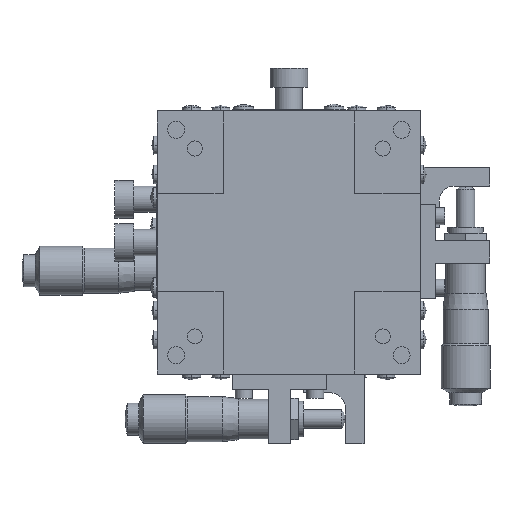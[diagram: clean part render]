
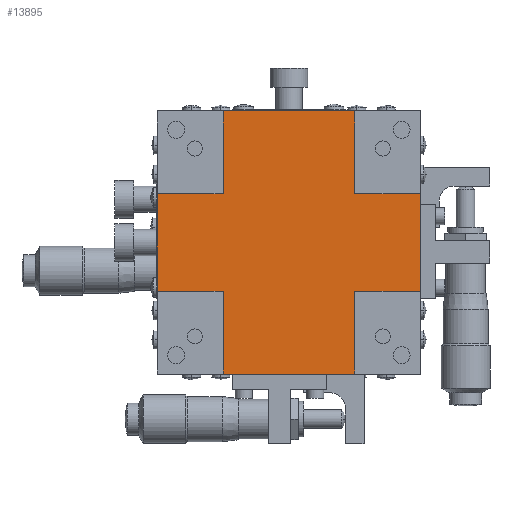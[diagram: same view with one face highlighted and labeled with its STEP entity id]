
A CAD part, front view. The second image highlights one B-rep face of the part: STEP entity #13895.
In plain terms, the highlighted planar face has unit normal (0, -1, 0).
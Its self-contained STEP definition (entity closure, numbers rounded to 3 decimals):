
#2303 = LINE ( 'NONE', #2305, #18441 ) ;
#2305 = CARTESIAN_POINT ( 'NONE',  ( -17.5, -6.5, 42.141 ) ) ;
#2306 = DIRECTION ( 'NONE',  ( 0., 0., 1. ) ) ;
#2309 = LINE ( 'NONE', #2311, #18443 ) ;
#2310 = LINE ( 'NONE', #2322, #18448 ) ;
#2311 = CARTESIAN_POINT ( 'NONE',  ( 0., -6.5, -48. ) ) ;
#2312 = DIRECTION ( 'NONE',  ( 1., 0., 0. ) ) ;
#2322 = CARTESIAN_POINT ( 'NONE',  ( 0., -6.5, -22. ) ) ;
#2323 = DIRECTION ( 'NONE',  ( -1., 0., 0. ) ) ;
#2330 = LINE ( 'NONE', #2332, #18450 ) ;
#2332 = CARTESIAN_POINT ( 'NONE',  ( 0., -6.5, -48. ) ) ;
#2333 = DIRECTION ( 'NONE',  ( -1., 0., 0. ) ) ;
#2336 = LINE ( 'NONE', #2337, #18452 ) ;
#2337 = CARTESIAN_POINT ( 'NONE',  ( 17.5, -6.5, 42.141 ) ) ;
#2338 = DIRECTION ( 'NONE',  ( 0., 0., 1. ) ) ;
#2345 = LINE ( 'NONE', #2346, #18455 ) ;
#2346 = CARTESIAN_POINT ( 'NONE',  ( 0., -6.5, -70. ) ) ;
#2347 = DIRECTION ( 'NONE',  ( 1., 0., 0. ) ) ;
#2356 = LINE ( 'NONE', #2357, #18459 ) ;
#2357 = CARTESIAN_POINT ( 'NONE',  ( 0., -6.5, -22. ) ) ;
#2358 = DIRECTION ( 'NONE',  ( 1., 0., 0. ) ) ;
#2381 = LINE ( 'NONE', #2382, #18469 ) ;
#2382 = CARTESIAN_POINT ( 'NONE',  ( -35., -6.5, 42.141 ) ) ;
#2383 = DIRECTION ( 'NONE',  ( 0., 0., -1. ) ) ;
#2388 = LINE ( 'NONE', #2399, #18473 ) ;
#2399 = CARTESIAN_POINT ( 'NONE',  ( 35., -6.5, 42.141 ) ) ;
#2400 = DIRECTION ( 'NONE',  ( 0., 0., 1. ) ) ;
#4642 = LINE ( 'NONE', #4643, #18479 ) ;
#4643 = CARTESIAN_POINT ( 'NONE',  ( 17.5, -6.5, 42.141 ) ) ;
#4644 = DIRECTION ( 'NONE',  ( 0., 0., -1. ) ) ;
#4645 = LINE ( 'NONE', #4646, #18480 ) ;
#4646 = CARTESIAN_POINT ( 'NONE',  ( 0., -6.5, 0. ) ) ;
#4647 = DIRECTION ( 'NONE',  ( -1., 0., 0. ) ) ;
#4648 = LINE ( 'NONE', #4649, #18481 ) ;
#4649 = CARTESIAN_POINT ( 'NONE',  ( -17.5, -6.5, 42.141 ) ) ;
#4650 = DIRECTION ( 'NONE',  ( 0., 0., -1. ) ) ;
#4930 = CARTESIAN_POINT ( 'NONE',  ( 0., -6.5, 42.141 ) ) ;
#4939 = FACE_OUTER_BOUND ( 'NONE', #13767, .T. ) ;
#4940 = PLANE ( 'NONE',  #18543 ) ;
#4942 = DIRECTION ( 'NONE',  ( 0., -1., 0. ) ) ;
#4943 = DIRECTION ( 'NONE',  ( 0., 0., 1. ) ) ;
#7445 = ORIENTED_EDGE ( 'NONE', *, *, #13482, .T. ) ;
#7446 = ORIENTED_EDGE ( 'NONE', *, *, #13479, .T. ) ;
#7447 = ORIENTED_EDGE ( 'NONE', *, *, #13477, .F. ) ;
#7448 = ORIENTED_EDGE ( 'NONE', *, *, #13500, .T. ) ;
#7449 = ORIENTED_EDGE ( 'NONE', *, *, #13474, .T. ) ;
#7450 = ORIENTED_EDGE ( 'NONE', *, *, #13504, .F. ) ;
#7451 = ORIENTED_EDGE ( 'NONE', *, *, #13505, .T. ) ;
#7452 = ORIENTED_EDGE ( 'NONE', *, *, #13506, .T. ) ;
#7453 = ORIENTED_EDGE ( 'NONE', *, *, #13486, .F. ) ;
#7454 = ORIENTED_EDGE ( 'NONE', *, *, #13494, .T. ) ;
#7455 = ORIENTED_EDGE ( 'NONE', *, *, #13470, .T. ) ;
#7456 = ORIENTED_EDGE ( 'NONE', *, *, #13468, .F. ) ;
#9911 = CARTESIAN_POINT ( 'NONE',  ( 35., -6.5, -48. ) ) ;
#9920 = CARTESIAN_POINT ( 'NONE',  ( -35., -6.5, -48. ) ) ;
#9923 = CARTESIAN_POINT ( 'NONE',  ( -17.5, -6.5, -70. ) ) ;
#9924 = CARTESIAN_POINT ( 'NONE',  ( -17.5, -6.5, -48. ) ) ;
#9925 = CARTESIAN_POINT ( 'NONE',  ( 17.5, -6.5, -22. ) ) ;
#9927 = CARTESIAN_POINT ( 'NONE',  ( 35., -6.5, -22. ) ) ;
#9929 = CARTESIAN_POINT ( 'NONE',  ( 17.5, -6.5, -70. ) ) ;
#9931 = CARTESIAN_POINT ( 'NONE',  ( 17.5, -6.5, -48. ) ) ;
#9932 = CARTESIAN_POINT ( 'NONE',  ( -35., -6.5, -22. ) ) ;
#9936 = CARTESIAN_POINT ( 'NONE',  ( -17.5, -6.5, -22. ) ) ;
#9942 = CARTESIAN_POINT ( 'NONE',  ( -17.5, -6.5, 0. ) ) ;
#9943 = CARTESIAN_POINT ( 'NONE',  ( 17.5, -6.5, 0. ) ) ;
#10847 = VERTEX_POINT ( 'NONE', #9911 ) ;
#10856 = VERTEX_POINT ( 'NONE', #9920 ) ;
#10859 = VERTEX_POINT ( 'NONE', #9923 ) ;
#10860 = VERTEX_POINT ( 'NONE', #9924 ) ;
#10861 = VERTEX_POINT ( 'NONE', #9925 ) ;
#10863 = VERTEX_POINT ( 'NONE', #9927 ) ;
#10865 = VERTEX_POINT ( 'NONE', #9929 ) ;
#10867 = VERTEX_POINT ( 'NONE', #9931 ) ;
#10868 = VERTEX_POINT ( 'NONE', #9932 ) ;
#10872 = VERTEX_POINT ( 'NONE', #9936 ) ;
#10878 = VERTEX_POINT ( 'NONE', #9942 ) ;
#10879 = VERTEX_POINT ( 'NONE', #9943 ) ;
#13468 = EDGE_CURVE ( 'NONE', #10859, #10860, #2303, .T. ) ;
#13470 = EDGE_CURVE ( 'NONE', #10856, #10860, #2309, .T. ) ;
#13474 = EDGE_CURVE ( 'NONE', #10863, #10861, #2310, .T. ) ;
#13477 = EDGE_CURVE ( 'NONE', #10847, #10867, #2330, .T. ) ;
#13479 = EDGE_CURVE ( 'NONE', #10865, #10867, #2336, .T. ) ;
#13482 = EDGE_CURVE ( 'NONE', #10859, #10865, #2345, .T. ) ;
#13486 = EDGE_CURVE ( 'NONE', #10868, #10872, #2356, .T. ) ;
#13494 = EDGE_CURVE ( 'NONE', #10868, #10856, #2381, .T. ) ;
#13500 = EDGE_CURVE ( 'NONE', #10847, #10863, #2388, .T. ) ;
#13504 = EDGE_CURVE ( 'NONE', #10879, #10861, #4642, .T. ) ;
#13505 = EDGE_CURVE ( 'NONE', #10879, #10878, #4645, .T. ) ;
#13506 = EDGE_CURVE ( 'NONE', #10878, #10872, #4648, .T. ) ;
#13767 = EDGE_LOOP ( 'NONE', ( #7445, #7446, #7447, #7448, #7449, #7450, #7451, #7452, #7453, #7454, #7455, #7456 ) ) ;
#13895 = ADVANCED_FACE ( 'NONE', ( #4939 ), #4940, .T. ) ;
#18441 = VECTOR ( 'NONE', #2306, 1000. ) ;
#18443 = VECTOR ( 'NONE', #2312, 1000. ) ;
#18448 = VECTOR ( 'NONE', #2323, 1000. ) ;
#18450 = VECTOR ( 'NONE', #2333, 1000. ) ;
#18452 = VECTOR ( 'NONE', #2338, 1000. ) ;
#18455 = VECTOR ( 'NONE', #2347, 1000. ) ;
#18459 = VECTOR ( 'NONE', #2358, 1000. ) ;
#18469 = VECTOR ( 'NONE', #2383, 1000. ) ;
#18473 = VECTOR ( 'NONE', #2400, 1000. ) ;
#18479 = VECTOR ( 'NONE', #4644, 1000. ) ;
#18480 = VECTOR ( 'NONE', #4647, 1000. ) ;
#18481 = VECTOR ( 'NONE', #4650, 1000. ) ;
#18543 = AXIS2_PLACEMENT_3D ( 'NONE', #4930, #4942, #4943 ) ;
